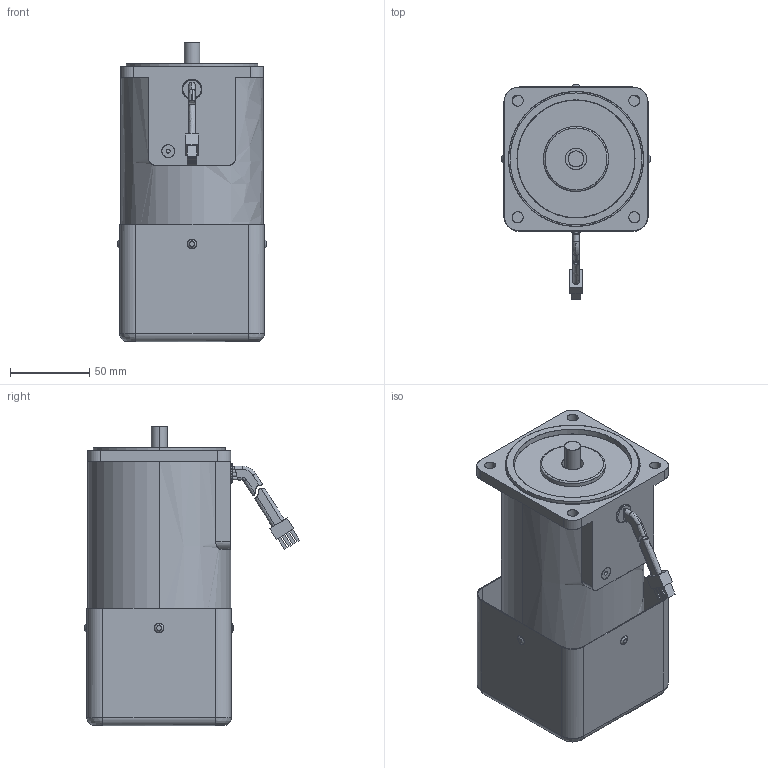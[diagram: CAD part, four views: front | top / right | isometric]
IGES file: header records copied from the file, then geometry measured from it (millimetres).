
Start section: SolidWorks IGES file using analytic representation for surfaces
Global section: file name: \\楷备家烹钦辑滚\data (D)\档搁 枚\权其捞瘤 档搁\7. SPEED INDUCTION\90\120W\(7-101) 9SDG∴-120F2W.IGS; native system: SolidWorks 2007; preprocessor: SolidWorks 2007; author: user; date: 150707.175540; units: millimetre
Bounding box: 94 x 135.4 x 188.5 mm (x, y, z)
Surface area: 174977.6 mm2 (no closed solid volume)
Topology: 0 solids, 0 shells, 394 faces, 6996 edges, 6996 vertices
Faces by surface type: revolution 238, bspline 156
